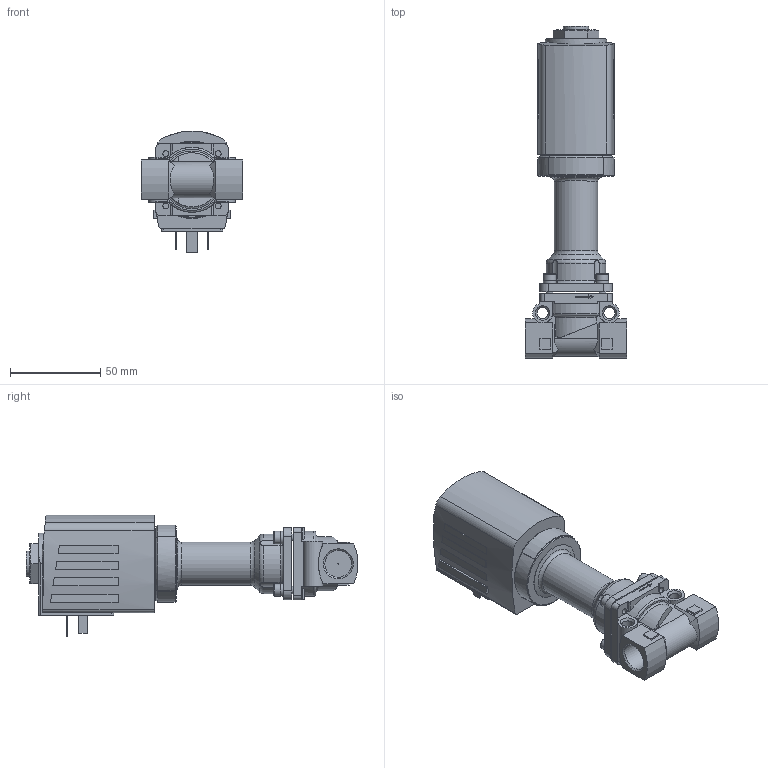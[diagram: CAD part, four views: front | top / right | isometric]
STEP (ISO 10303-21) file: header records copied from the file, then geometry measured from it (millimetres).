
FILE_DESCRIPTION(/* description */ ('STEP AP214'),/* implementation_level */ '2;1');
FILE_NAME(/* name */ '6026-357456-pluger_valve_2_2_Wege_direct-acting',/* time_stamp */ '2024-03-04T13:57:47+01:00',/* author */ ('License CC BY-ND 4.0'),/* organization */ ('CADENAS'),/* preprocessor_version */ 'ST-DEVELOPER v19.3',/* originating_system */ 'PARTsolutions',/* authorisation */ ' ');
FILE_SCHEMA (('AUTOMOTIVE_DESIGN {1 0 10303 214 3 1 1}'));
Length unit declared in the file: millimetre
Products named in the file (4): 6026-357456-pluger valve 2/2 Wege direct-acting; 6026ms centerpiece 0; 6026g-G 3/8MS-pluger valve_body; AC10ex-42SG=k-Plan-Coil
Assembly tree (3 placements, depth 2):
  6026-357456-pluger valve 2/2 Wege direct-acting
    6026ms centerpiece 0
    6026g-G 3/8MS-pluger valve_body
    AC10ex-42SG=k-Plan-Coil
Bounding box: 56 x 183.93 x 67.5 mm (x, y, z)
Volume: 233916.2 mm3; surface area: 40442.5 mm2
Topology: 3 solids, 3 shells, 308 faces, 760 edges, 498 vertices
Faces by surface type: plane 171, cylinder 92, cone 30, torus 15
Full cylindrical faces by diameter (mm): 0.4 x1, 2.013 x1, 3.242 x4, 4 x4, 6.3 x2, 7 x4, 7.1 x4, 7.8 x4, 14 x1, 14.95 x2, 24 x1, 30.3 x1, 32 x1, 42.3 x1
Entity records: 10254 total; most frequent: CARTESIAN_POINT 1759, DIRECTION 1498, ORIENTED_EDGE 1392, EDGE_CURVE 696, AXIS2_PLACEMENT_3D 552, VERTEX_POINT 486, EDGE_LOOP 414, FACE_BOUND 414
